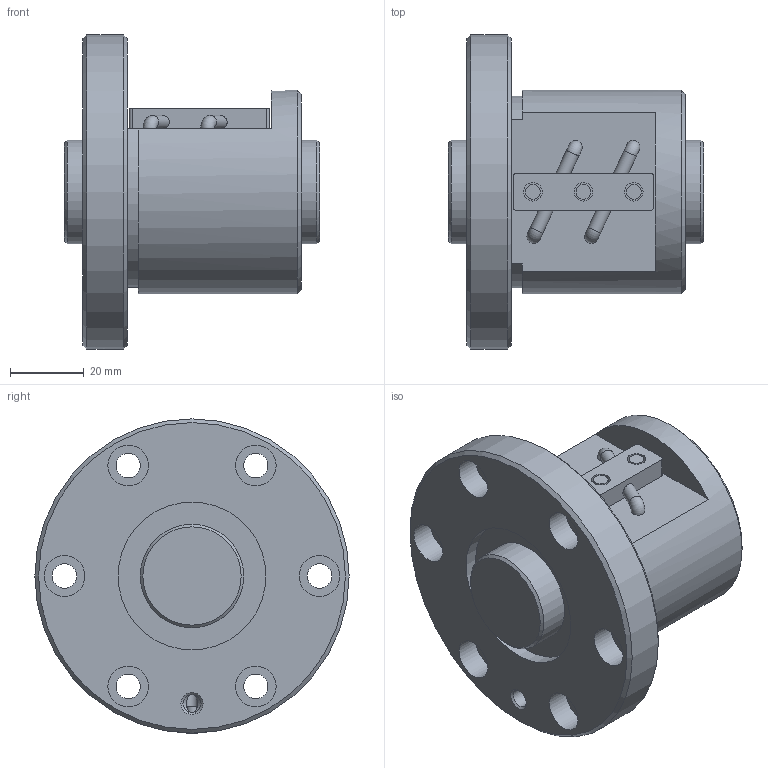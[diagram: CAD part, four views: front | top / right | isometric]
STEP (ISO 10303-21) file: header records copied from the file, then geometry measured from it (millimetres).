
FILE_DESCRIPTION(/* description */ ('STEP AP203'),/* implementation_level */ '2;1');
FILE_NAME(/* name */ 'BNF2805V-5RRG1+69LC0_000_rev',/* time_stamp */ '2024-08-06T07:29:50+02:00',/* author */ ('License CC BY-ND 4.0'),/* organization */ ('CADENAS'),/* preprocessor_version */ 'ST-DEVELOPER v19.3',/* originating_system */ 'PARTsolutions',/* authorisation */ ' ');
FILE_SCHEMA (('CONFIG_CONTROL_DESIGN'));
Length unit declared in the file: millimetre
Products named in the file (3): BNF2805V-5RRG1+69LC0_000_rev; BNF 2805-5RR000 Shaft; BNF 2805-5RR Nut
Assembly tree (2 placements, depth 2):
  BNF2805V-5RRG1+69LC0_000_rev
    BNF 2805-5RR000 Shaft
    BNF 2805-5RR Nut
Bounding box: 69 x 85 x 85 mm (x, y, z)
Volume: 165346.5 mm3; surface area: 37437.2 mm2
Topology: 2 solids, 2 shells, 78 faces, 172 edges, 113 vertices
Faces by surface type: cylinder 37, plane 29, cone 8, torus 4
Full cylindrical faces by diameter (mm): 3 x2, 3.665 x4, 4 x3, 4.917 x1, 5 x3, 6.6 x6, 11 x6, 28 x2, 40 x2, 55 x1, 85 x1
Entity records: 1991 total; most frequent: DIRECTION 352, CARTESIAN_POINT 341, ORIENTED_EDGE 230, AXIS2_PLACEMENT_3D 164, EDGE_LOOP 160, FACE_BOUND 160, EDGE_CURVE 115, VERTEX_POINT 99
